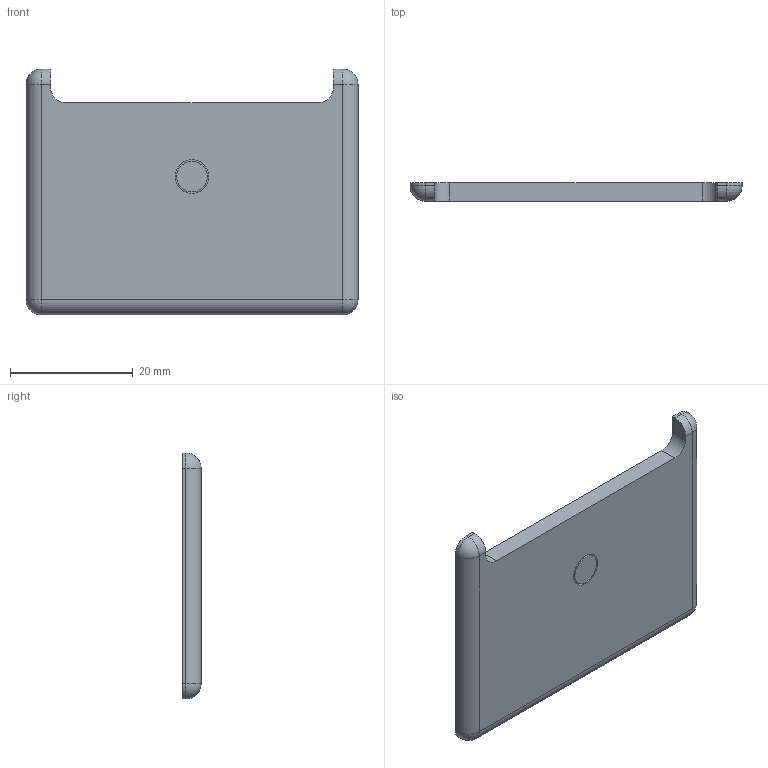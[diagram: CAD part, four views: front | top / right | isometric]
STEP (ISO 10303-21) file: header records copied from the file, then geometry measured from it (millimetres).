
FILE_DESCRIPTION(/* description */ ('END CAP HEIGHT ADJ PROFILE'),/* implementation_level */ '2;1');
FILE_NAME(/* name */ 'Z:\WEBSITE\DREAMWEAVER\MiniTec\Products\MiniTec_End_Caps\CAD\STEP\22_0979_1 END CAP HEIGHT ADJ PROFILE.stp',/* time_stamp */ '2019-04-08T15:21:34-04:00',/* author */ ('amoles'),/* organization */ (''),/* preprocessor_version */ 'ST-DEVELOPER v17',/* originating_system */ 'Autodesk Inventor 2018',/* authorisation */ '');
FILE_SCHEMA (('CONFIG_CONTROL_DESIGN'));
Length unit declared in the file: millimetre
Products named in the file (1): 22.0979/1 
Bounding box: 54 x 3 x 40 mm (x, y, z)
Volume: 5530.9 mm3; surface area: 4249.6 mm2
Topology: 1 solids, 1 shells, 29 faces, 69 edges, 40 vertices
Faces by surface type: cylinder 13, plane 12, sphere 4
Full cylindrical faces by diameter (mm): 5 x1, 5.5 x1
Entity records: 882 total; most frequent: DIRECTION 153, CARTESIAN_POINT 135, ORIENTED_EDGE 130, EDGE_CURVE 65, AXIS2_PLACEMENT_3D 58, VERTEX_POINT 40, LINE 37, VECTOR 37
